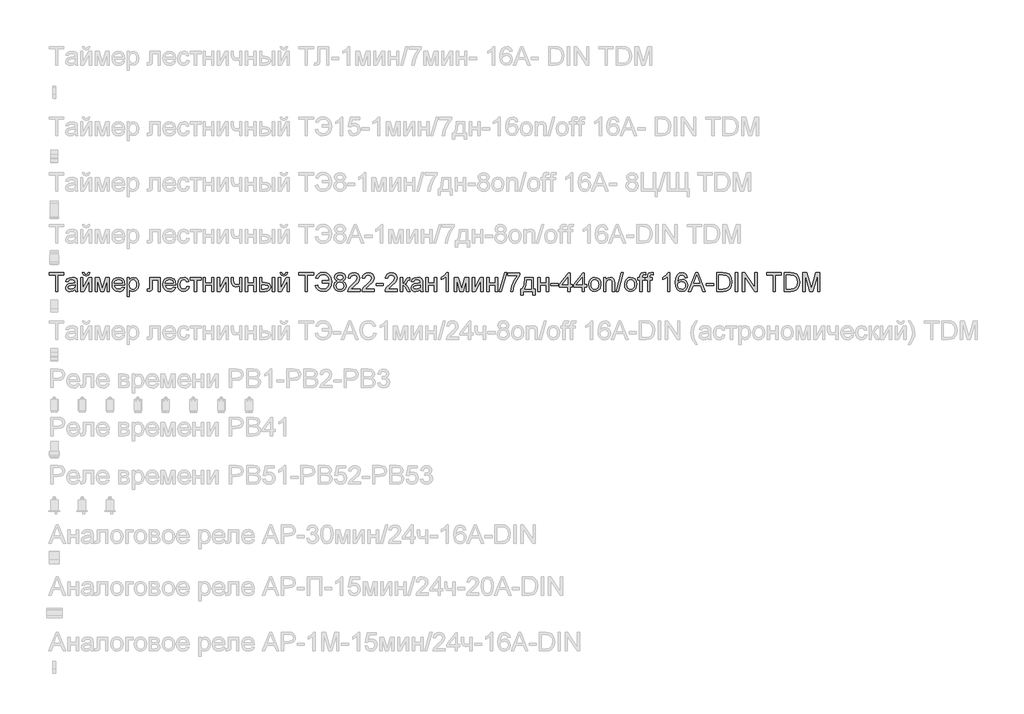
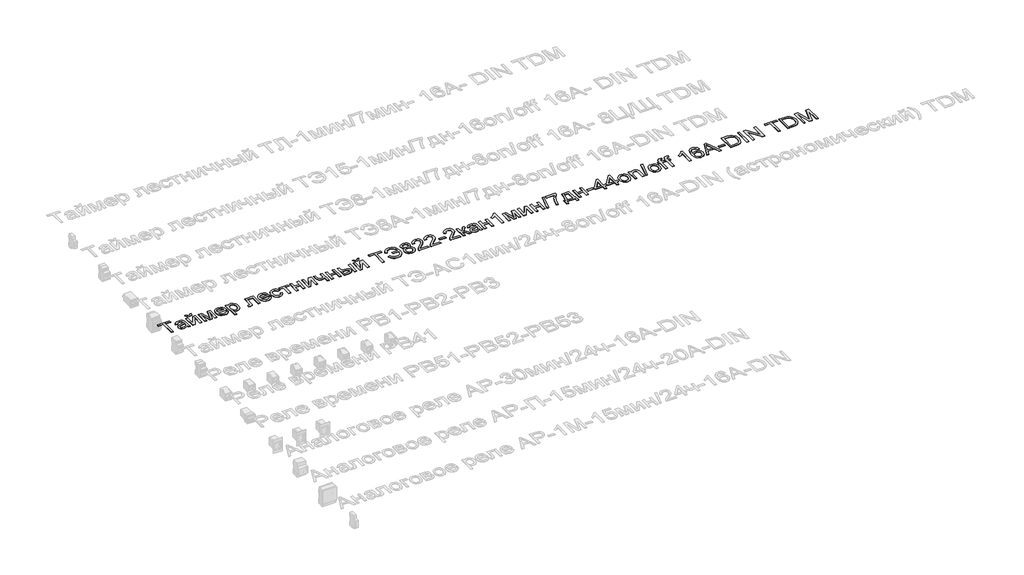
# One storey, part 31 of 34: 1 proxy.
"""IFC4 building model written with IfcOpenShell, lengths in millimetres."""

from ifc_helpers import new_model, si_unit, frame, origin, place, context, project, spatial, polyline, outline, extrude, element, save

model = new_model("IFC4")

# Units and contexts
model_context = context("Model", 3, world=origin())
ifc_project = project(units=[si_unit("LENGTHUNIT", "METRE", prefix="MILLI")], contexts=[model_context])

# Site, building, storey
site = spatial("IfcSite", under=ifc_project)
building = spatial("IfcBuilding", under=site)
storey = spatial("IfcBuildingStorey", under=building, Name="Этаж 01", Elevation=0.0)

# Proxy
placement = place(None, origin())
element("IfcBuildingElementProxy", 1, Name="Надпись на модели 1", ObjectType="Надпись на модели 1", at=placement, inside=storey, context=model_context, shape_type="SweptSolid", body=[
    extrude(outline(polyline([(-19013.8985135, 17316.235284), (-19013.8985135, 17404.1345554), (-19046.8607403, 17404.1345554), (-19046.8607403, 17416.6915941), (-18968.379248, 17416.6915941), (-18968.379248, 17404.1345554), (-19001.3414748, 17404.1345554), (-19001.3414748, 17316.235284), (-19013.8985135, 17316.235284)])), frame((0.0, 0.0, 40.0), z_axis=(0.0, 0.0, 1.0), x_axis=(1.0, 0.0, 0.0)), (0.0, 0.0, 1.0), 2.0),
    extrude(outline(polyline([(-18908.7333139, 17325.6530631), (-18920.9102079, 17317.1427262), (-18934.3624262, 17314.6656541), (-18944.8562601, 17316.1555762), (-18952.5971104, 17320.6253425), (-18957.3703793, 17327.4127653), (-18958.9614689, 17335.8556571), (-18956.5579732, 17345.7884709), (-18950.2426656, 17352.998958), (-18941.450286, 17357.1192364), (-18930.5855044, 17359.0076973), (-18908.8068903, 17363.3241794), (-18908.7333139, 17366.1200825), (-18912.1914046, 17375.3907088), (-18926.0728186, 17379.0204778), (-18938.7770101, 17376.6047194), (-18944.8348003, 17368.0330689), (-18957.3918391, 17369.6026988), (-18951.9594483, 17381.8654319), (-18941.0210903, 17389.0513936), (-18924.4541378, 17391.5775166), (-18909.2360859, 17389.3456992), (-18900.63991, 17383.7416301), (-18896.7894117, 17375.2190306), (-18896.1762751, 17364.2316216), (-18896.1762751, 17348.6088996), (-18895.538613, 17326.7934973), (-18893.0370154, 17316.235284), (-18905.5940542, 17316.235284), (-18908.7333139, 17325.6530631)]), holes=[polyline([(-18908.7333139, 17350.7671406), (-18928.9913491, 17346.9166424), (-18939.794817, 17344.8810287), (-18944.6876475, 17341.5700907), (-18946.4044302, 17336.7385739), (-18942.6642965, 17329.9450197), (-18931.6891504, 17327.2226929), (-18918.9849588, 17330.2270625), (-18910.793453, 17337.4988633), (-18908.8068903, 17347.210948), (-18908.7333139, 17350.7671406)])]), frame((0.0, 0.0, 40.0), z_axis=(0.0, 0.0, 1.0), x_axis=(1.0, 0.0, 0.0)), (0.0, 0.0, 1.0), 2.0),
    extrude(outline(polyline([(-18878.9103468, 17390.0078868), (-18866.353308, 17390.0078868), (-18866.353308, 17333.746467), (-18835.5002713, 17390.0078868), (-18819.2644126, 17390.0078868), (-18819.2644126, 17316.235284), (-18831.8214514, 17316.235284), (-18831.8214514, 17372.1533473), (-18862.4782843, 17316.235284), (-18878.9103468, 17316.235284), (-18878.9103468, 17390.0078868)])), frame((0.0, 0.0, 40.0), z_axis=(0.0, 0.0, 1.0), x_axis=(1.0, 0.0, 0.0)), (0.0, 0.0, 1.0), 2.0),
    extrude(outline(polyline([(-18838.0999708, 17416.6915941), (-18828.6821917, 17416.6915941), (-18834.7767701, 17402.7243411), (-18848.3025648, 17397.856036), (-18862.9442682, 17402.6875529), (-18869.4925677, 17416.6915941), (-18860.0747886, 17416.6915941), (-18856.5431215, 17409.6159971), (-18849.4307362, 17407.2738151), (-18841.6316379, 17409.5424207), (-18838.0999708, 17416.6915941)])), frame((0.0, 0.0, 40.0), z_axis=(0.0, 0.0, 1.0), x_axis=(1.0, 0.0, 0.0)), (0.0, 0.0, 1.0), 2.0),
    extrude(outline(polyline([(-18800.4288545, 17390.0078868), (-18778.8219186, 17390.0078868), (-18762.169127, 17330.9505638), (-18744.2164856, 17390.0078868), (-18723.516992, 17390.0078868), (-18723.516992, 17316.235284), (-18736.0740308, 17316.235284), (-18736.0740308, 17375.6359635), (-18754.124774, 17316.235284), (-18770.6058874, 17316.235284), (-18787.8718157, 17378.4809176), (-18787.8718157, 17316.235284), (-18800.4288545, 17316.235284), (-18800.4288545, 17390.0078868)])), frame((0.0, 0.0, 40.0), z_axis=(0.0, 0.0, 1.0), x_axis=(1.0, 0.0, 0.0)), (0.0, 0.0, 1.0), 2.0),
    extrude(outline(polyline([(-18653.0308017, 17338.2101018), (-18640.7190176, 17336.640472), (-18645.1550614, 17327.3637143), (-18652.2337241, 17320.4291387), (-18661.7955903, 17316.1065253), (-18673.6812444, 17314.6656541), (-18688.4149183, 17317.1519233), (-18699.7518151, 17324.6107308), (-18706.9806963, 17336.5576985), (-18709.3903234, 17352.5084487), (-18706.9561709, 17368.9956935), (-18699.6537133, 17381.3258717), (-18688.4701006, 17389.0146054), (-18674.3924829, 17391.5775166), (-18660.753258, 17389.0207367), (-18649.8547538, 17381.3503971), (-18642.7086461, 17369.0447444), (-18640.3266102, 17352.5820251), (-18640.4001866, 17349.1975108), (-18696.8332846, 17349.1975108), (-18694.6597152, 17339.7981258), (-18689.6105348, 17332.8880756), (-18682.3234056, 17328.6390386), (-18673.4359897, 17327.2226929), (-18661.1242056, 17329.8469178), (-18653.0308017, 17338.2101018)]), holes=[polyline([(-18696.8332846, 17361.7545495), (-18652.8836489, 17361.7545495), (-18657.9113695, 17373.1343659), (-18665.2322212, 17377.5489499), (-18674.4415339, 17379.0204778), (-18689.9048404, 17374.323851), (-18694.7700798, 17368.8332123), (-18696.8332846, 17361.7545495)])]), frame((0.0, 0.0, 40.0), z_axis=(0.0, 0.0, 1.0), x_axis=(1.0, 0.0, 0.0)), (0.0, 0.0, 1.0), 2.0),
    extrude(outline(polyline([(-18627.7695714, 17287.9819468), (-18627.7695714, 17390.0078868), (-18615.2125326, 17390.0078868), (-18615.2125326, 17377.6961027), (-18606.5305175, 17388.1071631), (-18594.8073446, 17391.5775166), (-18578.890317, 17386.7214743), (-18568.4915192, 17373.036264), (-18564.9843776, 17353.6856711), (-18568.9452404, 17333.3417968), (-18580.4476841, 17319.4849083), (-18596.3279235, 17314.6656541), (-18607.2540188, 17317.890753), (-18615.2125326, 17326.0454705), (-18615.2125326, 17287.9819468), (-18627.7695714, 17287.9819468)]), holes=[polyline([(-18615.2125326, 17352.5329742), (-18613.8544349, 17341.2757851), (-18609.7801418, 17333.4031104), (-18603.7683369, 17328.7677973), (-18596.5977037, 17327.2226929), (-18589.3105745, 17328.8229796), (-18583.1454854, 17333.6238396), (-18578.9424336, 17341.7846886), (-18577.5414163, 17353.4649419), (-18578.9087111, 17364.6608173), (-18583.0105953, 17372.6438566), (-18589.0132032, 17377.4263225), (-18596.0826689, 17379.0204778), (-18603.1797257, 17377.325155), (-18609.4122598, 17372.2391864), (-18613.7624644, 17363.9219876), (-18615.2125326, 17352.5329742)])]), frame((0.0, 0.0, 40.0), z_axis=(0.0, 0.0, 1.0), x_axis=(1.0, 0.0, 0.0)), (0.0, 0.0, 1.0), 2.0),
    extrude(outline(polyline([(-18505.3384434, 17390.0078868), (-18448.8317689, 17390.0078868), (-18448.8317689, 17316.3088604), (-18461.3888077, 17316.3088604), (-18461.3888077, 17377.450848), (-18492.7814046, 17377.450848), (-18492.7814046, 17342.2568038), (-18493.6275332, 17326.0209451), (-18498.2751091, 17319.1660772), (-18509.262518, 17316.235284), (-18519.465112, 17316.8729461), (-18519.465112, 17328.7923228), (-18513.8487802, 17328.7923228), (-18508.1711348, 17329.564875), (-18505.9025291, 17332.0174216), (-18505.3384434, 17342.9680423), (-18505.3384434, 17390.0078868)])), frame((0.0, 0.0, 40.0), z_axis=(0.0, 0.0, 1.0), x_axis=(1.0, 0.0, 0.0)), (0.0, 0.0, 1.0), 2.0),
    extrude(outline(polyline([(-18378.3455787, 17338.2101018), (-18366.0337946, 17336.640472), (-18370.4698383, 17327.3637143), (-18377.548501, 17320.4291387), (-18387.1103672, 17316.1065253), (-18398.9960213, 17314.6656541), (-18413.7296952, 17317.1519233), (-18425.0665921, 17324.6107308), (-18432.2954733, 17336.5576985), (-18434.7051003, 17352.5084487), (-18432.2709478, 17368.9956935), (-18424.9684902, 17381.3258717), (-18413.7848775, 17389.0146054), (-18399.7072599, 17391.5775166), (-18386.0680349, 17389.0207367), (-18375.1695308, 17381.3503971), (-18368.023423, 17369.0447444), (-18365.6413871, 17352.5820251), (-18365.7149635, 17349.1975108), (-18422.1480616, 17349.1975108), (-18419.9744921, 17339.7981258), (-18414.9253117, 17332.8880756), (-18407.6381825, 17328.6390386), (-18398.7507667, 17327.2226929), (-18386.4389826, 17329.8469178), (-18378.3455787, 17338.2101018)]), holes=[polyline([(-18422.1480616, 17361.7545495), (-18378.1984259, 17361.7545495), (-18383.2261465, 17373.1343659), (-18390.5469982, 17377.5489499), (-18399.7563108, 17379.0204778), (-18415.2196173, 17374.323851), (-18420.0848567, 17368.8332123), (-18422.1480616, 17361.7545495)])]), frame((0.0, 0.0, 40.0), z_axis=(0.0, 0.0, 1.0), x_axis=(1.0, 0.0, 0.0)), (0.0, 0.0, 1.0), 2.0),
    extrude(outline(polyline([(-18305.995453, 17342.9189914), (-18293.4384142, 17341.3493615), (-18296.9394245, 17330.1810773), (-18303.5183809, 17321.7412512), (-18312.5560152, 17316.4345534), (-18323.4330595, 17314.6656541), (-18336.7902416, 17317.1335292), (-18347.2350246, 17324.5371544), (-18353.9764622, 17336.5515672), (-18356.223608, 17352.8518052), (-18352.3853725, 17373.7107144), (-18340.6867251, 17387.1138817), (-18323.6047378, 17391.5775166), (-18312.9944079, 17390.044675), (-18304.5116622, 17385.44615), (-18298.4262809, 17378.0271964), (-18295.008044, 17368.0330689), (-18307.5650828, 17366.4634391), (-18313.3898811, 17375.8689554), (-18323.5066359, 17379.0204778), (-18331.6214996, 17377.4692421), (-18338.0625002, 17372.8155349), (-18342.265552, 17364.8079701), (-18343.6665693, 17353.1951618), (-18342.2962088, 17341.4260036), (-18338.1851275, 17333.3908477), (-18331.8606229, 17328.7647316), (-18323.8499925, 17327.2226929), (-18312.0164549, 17331.0731911), (-18305.995453, 17342.9189914)])), frame((0.0, 0.0, 40.0), z_axis=(0.0, 0.0, 1.0), x_axis=(1.0, 0.0, 0.0)), (0.0, 0.0, 1.0), 2.0),
    extrude(outline(polyline([(-18288.7295246, 17390.0078868), (-18229.0835905, 17390.0078868), (-18229.0835905, 17377.450848), (-18252.6280382, 17377.450848), (-18252.6280382, 17316.235284), (-18265.185077, 17316.235284), (-18265.185077, 17377.450848), (-18288.7295246, 17377.450848), (-18288.7295246, 17390.0078868)])), frame((0.0, 0.0, 40.0), z_axis=(0.0, 0.0, 1.0), x_axis=(1.0, 0.0, 0.0)), (0.0, 0.0, 1.0), 2.0),
    extrude(outline(polyline([(-18218.0961816, 17390.0078868), (-18205.5391428, 17390.0078868), (-18205.5391428, 17361.7545495), (-18172.576916, 17361.7545495), (-18172.576916, 17390.0078868), (-18160.0198773, 17390.0078868), (-18160.0198773, 17316.235284), (-18172.576916, 17316.235284), (-18172.576916, 17349.1975108), (-18205.5391428, 17349.1975108), (-18205.5391428, 17316.235284), (-18218.0961816, 17316.235284), (-18218.0961816, 17390.0078868)])), frame((0.0, 0.0, 40.0), z_axis=(0.0, 0.0, 1.0), x_axis=(1.0, 0.0, 0.0)), (0.0, 0.0, 1.0), 2.0),
    extrude(outline(polyline([(-18141.1843191, 17390.0078868), (-18128.6272803, 17390.0078868), (-18128.6272803, 17333.746467), (-18097.7742437, 17390.0078868), (-18081.538385, 17390.0078868), (-18081.538385, 17316.235284), (-18094.0954237, 17316.235284), (-18094.0954237, 17372.1533473), (-18124.7522567, 17316.235284), (-18141.1843191, 17316.235284), (-18141.1843191, 17390.0078868)])), frame((0.0, 0.0, 40.0), z_axis=(0.0, 0.0, 1.0), x_axis=(1.0, 0.0, 0.0)), (0.0, 0.0, 1.0), 2.0),
    extrude(outline(polyline([(-18067.4117163, 17390.0078868), (-18054.8546776, 17390.0078868), (-18054.8546776, 17375.8566927), (-18053.8368707, 17362.5884154), (-18048.9440402, 17355.4024537), (-18039.2319555, 17352.3367705), (-18021.8924508, 17356.1382177), (-18021.8924508, 17390.0078868), (-18009.335412, 17390.0078868), (-18009.335412, 17316.235284), (-18021.8924508, 17316.235284), (-18021.8924508, 17344.0962138), (-18042.5919444, 17339.7797317), (-18056.8289776, 17344.2801548), (-18065.2044244, 17355.3043519), (-18067.4117163, 17369.6517497), (-18067.4117163, 17390.0078868)])), frame((0.0, 0.0, 40.0), z_axis=(0.0, 0.0, 1.0), x_axis=(1.0, 0.0, 0.0)), (0.0, 0.0, 1.0), 2.0),
    extrude(outline(polyline([(-17990.4998539, 17390.0078868), (-17977.9428151, 17390.0078868), (-17977.9428151, 17361.7545495), (-17944.9805884, 17361.7545495), (-17944.9805884, 17390.0078868), (-17932.4235496, 17390.0078868), (-17932.4235496, 17316.235284), (-17944.9805884, 17316.235284), (-17944.9805884, 17349.1975108), (-17977.9428151, 17349.1975108), (-17977.9428151, 17316.235284), (-17990.4998539, 17316.235284), (-17990.4998539, 17390.0078868)])), frame((0.0, 0.0, 40.0), z_axis=(0.0, 0.0, 1.0), x_axis=(1.0, 0.0, 0.0)), (0.0, 0.0, 1.0), 2.0),
    extrude(outline(polyline([(-17844.5242782, 17390.0078868), (-17831.9672394, 17390.0078868), (-17831.9672394, 17316.235284), (-17844.5242782, 17316.235284), (-17844.5242782, 17390.0078868)])), frame((0.0, 0.0, 40.0), z_axis=(0.0, 0.0, 1.0), x_axis=(1.0, 0.0, 0.0)), (0.0, 0.0, 1.0), 2.0),
    extrude(outline(polyline([(-17913.5879914, 17390.0078868), (-17901.0309527, 17390.0078868), (-17901.0309527, 17363.3241794), (-17885.5063325, 17363.3241794), (-17872.0878367, 17361.7514838), (-17862.1458258, 17357.0333973), (-17855.9929994, 17349.5500643), (-17853.9420573, 17339.6816298), (-17855.6619056, 17330.6961121), (-17860.8214506, 17323.1146773), (-17869.7579174, 17317.9551323), (-17882.8085312, 17316.235284), (-17913.5879914, 17316.235284), (-17913.5879914, 17390.0078868)]), holes=[polyline([(-17901.0309527, 17328.7923228), (-17888.1305574, 17328.7923228), (-17871.4777657, 17331.4288104), (-17866.499096, 17339.6571044), (-17870.1901787, 17347.3826263), (-17886.4873511, 17350.7671406), (-17901.0309527, 17350.7671406), (-17901.0309527, 17328.7923228)])]), frame((0.0, 0.0, 40.0), z_axis=(0.0, 0.0, 1.0), x_axis=(1.0, 0.0, 0.0)), (0.0, 0.0, 1.0), 2.0),
    extrude(outline(polyline([(-17813.1316813, 17390.0078868), (-17800.5746425, 17390.0078868), (-17800.5746425, 17333.746467), (-17769.7216059, 17390.0078868), (-17753.4857471, 17390.0078868), (-17753.4857471, 17316.235284), (-17766.0427859, 17316.235284), (-17766.0427859, 17372.1533473), (-17796.6996188, 17316.235284), (-17813.1316813, 17316.235284), (-17813.1316813, 17390.0078868)])), frame((0.0, 0.0, 40.0), z_axis=(0.0, 0.0, 1.0), x_axis=(1.0, 0.0, 0.0)), (0.0, 0.0, 1.0), 2.0),
    extrude(outline(polyline([(-17772.3213053, 17416.6915941), (-17762.9035262, 17416.6915941), (-17768.9981046, 17402.7243411), (-17782.5238993, 17397.856036), (-17797.1656027, 17402.6875529), (-17803.7139022, 17416.6915941), (-17794.2961231, 17416.6915941), (-17790.764456, 17409.6159971), (-17783.6520707, 17407.2738151), (-17775.8529724, 17409.5424207), (-17772.3213053, 17416.6915941)])), frame((0.0, 0.0, 40.0), z_axis=(0.0, 0.0, 1.0), x_axis=(1.0, 0.0, 0.0)), (0.0, 0.0, 1.0), 2.0),
    extrude(outline(polyline([(-17668.7257354, 17316.235284), (-17668.7257354, 17404.1345554), (-17701.6879622, 17404.1345554), (-17701.6879622, 17416.6915941), (-17623.2064699, 17416.6915941), (-17623.2064699, 17404.1345554), (-17656.1686967, 17404.1345554), (-17656.1686967, 17316.235284), (-17668.7257354, 17316.235284)])), frame((0.0, 0.0, 40.0), z_axis=(0.0, 0.0, 1.0), x_axis=(1.0, 0.0, 0.0)), (0.0, 0.0, 1.0), 2.0),
    extrude(outline(polyline([(-17576.1175745, 17374.3115883), (-17538.4464582, 17374.3115883), (-17541.2117045, 17387.2641002), (-17547.8397118, 17397.2306366), (-17558.0300431, 17403.5857981), (-17571.4822614, 17405.7041852), (-17589.6985515, 17400.6028882), (-17599.6620222, 17385.2989972), (-17612.219061, 17388.4382569), (-17606.8479839, 17400.933982), (-17598.0923924, 17410.3640238), (-17586.3753508, 17416.2869239), (-17572.1199235, 17418.261224), (-17558.4285819, 17416.4494052), (-17546.7851168, 17411.0139487), (-17537.5359503, 17402.7611293), (-17531.0275046, 17392.4972216), (-17525.8894194, 17367.5670851), (-17528.2132074, 17346.9748904), (-17536.7051501, 17329.9327569), (-17551.3161967, 17318.4824298), (-17571.9972962, 17314.6656541), (-17587.0252757, 17316.7257933), (-17598.9998346, 17322.9062108), (-17607.920973, 17333.2069067), (-17613.7886908, 17347.6278809), (-17601.2316521, 17350.7671406), (-17596.9887464, 17340.4664447), (-17590.4649723, 17333.1088048), (-17581.6603299, 17328.6942209), (-17570.5748191, 17327.2226929), (-17558.0545686, 17329.5342181), (-17548.0113901, 17336.4687937), (-17541.2178359, 17347.4132831), (-17538.4464582, 17361.7545495), (-17576.1175745, 17361.7545495), (-17576.1175745, 17374.3115883)])), frame((0.0, 0.0, 40.0), z_axis=(0.0, 0.0, 1.0), x_axis=(1.0, 0.0, 0.0)), (0.0, 0.0, 1.0), 2.0),
    extrude(outline(polyline([(-17495.0363828, 17371.5647361), (-17506.4775128, 17379.3638344), (-17510.193121, 17391.5039402), (-17508.16977, 17401.3202581), (-17502.0997171, 17409.4320561), (-17492.6635439, 17414.8767096), (-17480.5418322, 17416.6915941), (-17468.346544, 17414.8337901), (-17458.7877435, 17409.2603778), (-17452.607326, 17401.0198211), (-17450.5471868, 17391.1605837), (-17454.2137441, 17379.3270462), (-17465.336043, 17371.5647361), (-17451.9819266, 17361.7177613), (-17447.4079271, 17345.4696399), (-17449.6765328, 17333.4644241), (-17456.4823497, 17323.543873), (-17466.991512, 17316.8852089), (-17480.3701539, 17314.6656541), (-17493.7487958, 17316.8944059), (-17504.2579581, 17323.5806612), (-17511.063775, 17333.5962485), (-17513.3323807, 17345.8129964), (-17508.5744402, 17362.4412626), (-17495.0363828, 17371.5647361)]), holes=[polyline([(-17497.6360822, 17391.1360582), (-17493.1847101, 17381.2768207), (-17480.2230011, 17377.450848), (-17467.5188095, 17381.2522953), (-17463.1042256, 17390.5719725), (-17467.6659623, 17400.2227435), (-17480.3701539, 17404.1345554), (-17493.1111337, 17400.3085826), (-17497.6360822, 17391.1360582)]), polyline([(-17500.7753419, 17346.2544548), (-17498.6784145, 17336.7998875), (-17491.259461, 17329.7242905), (-17480.272052, 17327.2226929), (-17471.724927, 17328.537871), (-17465.3115176, 17332.4834054), (-17459.9649659, 17345.8620473), (-17465.4831958, 17359.4982066), (-17472.0437581, 17363.5449086), (-17480.688985, 17364.8938092), (-17489.1165483, 17363.5633027), (-17495.4655784, 17359.571783), (-17500.7753419, 17346.2544548)])]), frame((0.0, 0.0, 40.0), z_axis=(0.0, 0.0, 1.0), x_axis=(1.0, 0.0, 0.0)), (0.0, 0.0, 1.0), 2.0),
    extrude(outline(polyline([(-17372.0656945, 17328.7923228), (-17372.0656945, 17316.235284), (-17437.9901481, 17316.235284), (-17436.6412474, 17324.8927736), (-17429.0138274, 17338.2223646), (-17413.2930035, 17352.7782288), (-17391.6124912, 17373.6984516), (-17386.1923631, 17387.9232221), (-17391.3059229, 17399.4379286), (-17404.6600393, 17404.1345554), (-17418.5782415, 17399.5482932), (-17423.8634795, 17386.8686271), (-17436.4205182, 17388.4382569), (-17433.3762947, 17400.5844941), (-17426.7942727, 17409.4565816), (-17417.0178087, 17414.882841), (-17404.3902592, 17416.6915941), (-17391.6707392, 17414.6805059), (-17381.9126693, 17408.6472412), (-17375.7046606, 17399.6341323), (-17373.6353244, 17388.6835116), (-17375.8671418, 17376.7763977), (-17383.2860954, 17364.4646136), (-17401.2755249, 17347.2599989), (-17415.7210246, 17335.1812067), (-17421.3864074, 17328.7923228), (-17372.0656945, 17328.7923228)])), frame((0.0, 0.0, 40.0), z_axis=(0.0, 0.0, 1.0), x_axis=(1.0, 0.0, 0.0)), (0.0, 0.0, 1.0), 2.0),
    extrude(outline(polyline([(-17295.1538321, 17328.7923228), (-17295.1538321, 17316.235284), (-17361.0782856, 17316.235284), (-17359.729385, 17324.8927736), (-17352.1019649, 17338.2223646), (-17336.381141, 17352.7782288), (-17314.7006288, 17373.6984516), (-17309.2805007, 17387.9232221), (-17314.3940604, 17399.4379286), (-17327.7481768, 17404.1345554), (-17341.666379, 17399.5482932), (-17346.951617, 17386.8686271), (-17359.5086558, 17388.4382569), (-17356.4644323, 17400.5844941), (-17349.8824102, 17409.4565816), (-17340.1059462, 17414.882841), (-17327.4783967, 17416.6915941), (-17314.7588767, 17414.6805059), (-17305.0008068, 17408.6472412), (-17298.7927981, 17399.6341323), (-17296.7234619, 17388.6835116), (-17298.9552794, 17376.7763977), (-17306.3742329, 17364.4646136), (-17324.3636625, 17347.2599989), (-17338.8091622, 17335.1812067), (-17344.4745449, 17328.7923228), (-17295.1538321, 17328.7923228)])), frame((0.0, 0.0, 40.0), z_axis=(0.0, 0.0, 1.0), x_axis=(1.0, 0.0, 0.0)), (0.0, 0.0, 1.0), 2.0),
    extrude(outline(polyline([(-17285.736053, 17346.0582511), (-17285.736053, 17358.6152898), (-17246.4953068, 17358.6152898), (-17246.4953068, 17346.0582511), (-17285.736053, 17346.0582511)])), frame((0.0, 0.0, 40.0), z_axis=(0.0, 0.0, 1.0), x_axis=(1.0, 0.0, 0.0)), (0.0, 0.0, 1.0), 2.0),
    extrude(outline(polyline([(-17171.1530742, 17328.7923228), (-17171.1530742, 17316.235284), (-17237.0775278, 17316.235284), (-17235.7286271, 17324.8927736), (-17228.1012071, 17338.2223646), (-17212.3803832, 17352.7782288), (-17190.6998709, 17373.6984516), (-17185.2797428, 17387.9232221), (-17190.3933026, 17399.4379286), (-17203.747419, 17404.1345554), (-17217.6656212, 17399.5482932), (-17222.9508592, 17386.8686271), (-17235.5078979, 17388.4382569), (-17232.4636744, 17400.5844941), (-17225.8816524, 17409.4565816), (-17216.1051884, 17414.882841), (-17203.4776389, 17416.6915941), (-17190.7581189, 17414.6805059), (-17181.000049, 17408.6472412), (-17174.7920403, 17399.6341323), (-17172.7227041, 17388.6835116), (-17174.9545215, 17376.7763977), (-17182.3734751, 17364.4646136), (-17200.3629047, 17347.2599989), (-17214.8084043, 17335.1812067), (-17220.4737871, 17328.7923228), (-17171.1530742, 17328.7923228)])), frame((0.0, 0.0, 40.0), z_axis=(0.0, 0.0, 1.0), x_axis=(1.0, 0.0, 0.0)), (0.0, 0.0, 1.0), 2.0),
    extrude(outline(polyline([(-17155.4567758, 17390.0078868), (-17142.899737, 17390.0078868), (-17142.899737, 17358.6152898), (-17134.487502, 17360.8716327), (-17127.595846, 17374.0172827), (-17121.8691496, 17385.3603109), (-17116.8169035, 17389.0513936), (-17107.6321164, 17390.0078868), (-17105.2286207, 17390.0078868), (-17105.2286207, 17377.3772716), (-17108.6131351, 17377.450848), (-17114.7445016, 17376.1264728), (-17119.0609837, 17367.8613906), (-17124.1254925, 17358.9218582), (-17131.225615, 17354.5440624), (-17123.3038894, 17349.6573633), (-17115.5293166, 17339.3627988), (-17102.089361, 17316.235284), (-17116.3631824, 17316.235284), (-17129.5333578, 17338.8722894), (-17136.1552338, 17348.449484), (-17142.899737, 17350.7671406), (-17142.899737, 17316.235284), (-17155.4567758, 17316.235284), (-17155.4567758, 17390.0078868)])), frame((0.0, 0.0, 40.0), z_axis=(0.0, 0.0, 1.0), x_axis=(1.0, 0.0, 0.0)), (0.0, 0.0, 1.0), 2.0),
    extrude(outline(polyline([(-17047.1523164, 17325.6530631), (-17059.3292104, 17317.1427262), (-17072.7814287, 17314.6656541), (-17083.2752626, 17316.1555762), (-17091.016113, 17320.6253425), (-17095.7893818, 17327.4127653), (-17097.3804715, 17335.8556571), (-17094.9769758, 17345.7884709), (-17088.6616682, 17352.998958), (-17079.8692885, 17357.1192364), (-17069.0045069, 17359.0076973), (-17047.2258928, 17363.3241794), (-17047.1523164, 17366.1200825), (-17050.6104071, 17375.3907088), (-17064.4918211, 17379.0204778), (-17077.1960127, 17376.6047194), (-17083.2538029, 17368.0330689), (-17095.8108416, 17369.6026988), (-17090.3784508, 17381.8654319), (-17079.4400928, 17389.0513936), (-17062.8731403, 17391.5775166), (-17047.6550885, 17389.3456992), (-17039.0589125, 17383.7416301), (-17035.2084143, 17375.2190306), (-17034.5952776, 17364.2316216), (-17034.5952776, 17348.6088996), (-17033.9576155, 17326.7934973), (-17031.4560179, 17316.235284), (-17044.0130567, 17316.235284), (-17047.1523164, 17325.6530631)]), holes=[polyline([(-17047.1523164, 17350.7671406), (-17067.4103516, 17346.9166424), (-17078.2138195, 17344.8810287), (-17083.1066501, 17341.5700907), (-17084.8234327, 17336.7385739), (-17081.0832991, 17329.9450197), (-17070.1081529, 17327.2226929), (-17057.4039613, 17330.2270625), (-17049.2124556, 17337.4988633), (-17047.2258928, 17347.210948), (-17047.1523164, 17350.7671406)])]), frame((0.0, 0.0, 40.0), z_axis=(0.0, 0.0, 1.0), x_axis=(1.0, 0.0, 0.0)), (0.0, 0.0, 1.0), 2.0),
    extrude(outline(polyline([(-17017.3293493, 17390.0078868), (-17004.7723105, 17390.0078868), (-17004.7723105, 17361.7545495), (-16971.8100838, 17361.7545495), (-16971.8100838, 17390.0078868), (-16959.253045, 17390.0078868), (-16959.253045, 17316.235284), (-16971.8100838, 17316.235284), (-16971.8100838, 17349.1975108), (-17004.7723105, 17349.1975108), (-17004.7723105, 17316.235284), (-17017.3293493, 17316.235284), (-17017.3293493, 17390.0078868)])), frame((0.0, 0.0, 40.0), z_axis=(0.0, 0.0, 1.0), x_axis=(1.0, 0.0, 0.0)), (0.0, 0.0, 1.0), 2.0),
    extrude(outline(polyline([(-16896.4678512, 17316.235284), (-16909.0248899, 17316.235284), (-16909.0248899, 17394.5205726), (-16920.9197411, 17386.0470239), (-16934.1389675, 17379.7071909), (-16934.1389675, 17391.5775166), (-16915.732605, 17403.325215), (-16904.5612551, 17416.6915941), (-16896.4678512, 17416.6915941), (-16896.4678512, 17316.235284)])), frame((0.0, 0.0, 40.0), z_axis=(0.0, 0.0, 1.0), x_axis=(1.0, 0.0, 0.0)), (0.0, 0.0, 1.0), 2.0),
    extrude(outline(polyline([(-16863.5056244, 17390.0078868), (-16841.8986885, 17390.0078868), (-16825.2458969, 17330.9505638), (-16807.2932555, 17390.0078868), (-16786.5937619, 17390.0078868), (-16786.5937619, 17316.235284), (-16799.1508007, 17316.235284), (-16799.1508007, 17375.6359635), (-16817.2015439, 17316.235284), (-16833.6826573, 17316.235284), (-16850.9485856, 17378.4809176), (-16850.9485856, 17316.235284), (-16863.5056244, 17316.235284), (-16863.5056244, 17390.0078868)])), frame((0.0, 0.0, 40.0), z_axis=(0.0, 0.0, 1.0), x_axis=(1.0, 0.0, 0.0)), (0.0, 0.0, 1.0), 2.0),
    extrude(outline(polyline([(-16767.7582038, 17390.0078868), (-16755.201165, 17390.0078868), (-16755.201165, 17333.746467), (-16724.3481284, 17390.0078868), (-16708.1122696, 17390.0078868), (-16708.1122696, 17316.235284), (-16720.6693084, 17316.235284), (-16720.6693084, 17372.1533473), (-16751.3261413, 17316.235284), (-16767.7582038, 17316.235284), (-16767.7582038, 17390.0078868)])), frame((0.0, 0.0, 40.0), z_axis=(0.0, 0.0, 1.0), x_axis=(1.0, 0.0, 0.0)), (0.0, 0.0, 1.0), 2.0),
    extrude(outline(polyline([(-16689.2767115, 17390.0078868), (-16676.7196727, 17390.0078868), (-16676.7196727, 17361.7545495), (-16643.7574459, 17361.7545495), (-16643.7574459, 17390.0078868), (-16631.2004072, 17390.0078868), (-16631.2004072, 17316.235284), (-16643.7574459, 17316.235284), (-16643.7574459, 17349.1975108), (-16676.7196727, 17349.1975108), (-16676.7196727, 17316.235284), (-16689.2767115, 17316.235284), (-16689.2767115, 17390.0078868)])), frame((0.0, 0.0, 40.0), z_axis=(0.0, 0.0, 1.0), x_axis=(1.0, 0.0, 0.0)), (0.0, 0.0, 1.0), 2.0),
    extrude(outline(polyline([(-16621.7826281, 17316.235284), (-16593.5292909, 17416.6915941), (-16582.1985254, 17416.6915941), (-16610.4518627, 17316.235284), (-16621.7826281, 17316.235284)])), frame((0.0, 0.0, 40.0), z_axis=(0.0, 0.0, 1.0), x_axis=(1.0, 0.0, 0.0)), (0.0, 0.0, 1.0), 2.0),
    extrude(outline(polyline([(-16576.2633626, 17402.5649255), (-16576.2633626, 17415.1219643), (-16510.338909, 17415.1219643), (-16510.338909, 17404.9684212), (-16529.0395771, 17377.9536201), (-16543.3501867, 17343.532128), (-16548.0100253, 17316.235284), (-16560.5670641, 17316.235284), (-16555.5761317, 17344.5621976), (-16541.8786587, 17376.5801939), (-16522.8959478, 17402.5649255), (-16576.2633626, 17402.5649255)])), frame((0.0, 0.0, 40.0), z_axis=(0.0, 0.0, 1.0), x_axis=(1.0, 0.0, 0.0)), (0.0, 0.0, 1.0), 2.0),
    extrude(outline(polyline([(-16485.2248315, 17390.0078868), (-16438.1359361, 17390.0078868), (-16438.1359361, 17328.7923228), (-16428.718157, 17328.7923228), (-16428.718157, 17295.830096), (-16441.2751958, 17295.830096), (-16441.2751958, 17316.235284), (-16493.0729807, 17316.235284), (-16493.0729807, 17295.830096), (-16505.6300195, 17295.830096), (-16505.6300195, 17328.7923228), (-16497.7818703, 17328.7923228), (-16488.0820483, 17352.7414406), (-16485.2248315, 17390.0078868)]), holes=[polyline([(-16474.2374226, 17377.450848), (-16477.1804785, 17348.8418915), (-16483.6552016, 17328.7923228), (-16450.6929749, 17328.7923228), (-16450.6929749, 17377.450848), (-16474.2374226, 17377.450848)])]), frame((0.0, 0.0, 40.0), z_axis=(0.0, 0.0, 1.0), x_axis=(1.0, 0.0, 0.0)), (0.0, 0.0, 1.0), 2.0),
    extrude(outline(polyline([(-16414.5914884, 17390.0078868), (-16402.0344497, 17390.0078868), (-16402.0344497, 17361.7545495), (-16369.0722229, 17361.7545495), (-16369.0722229, 17390.0078868), (-16356.5151841, 17390.0078868), (-16356.5151841, 17316.235284), (-16369.0722229, 17316.235284), (-16369.0722229, 17349.1975108), (-16402.0344497, 17349.1975108), (-16402.0344497, 17316.235284), (-16414.5914884, 17316.235284), (-16414.5914884, 17390.0078868)])), frame((0.0, 0.0, 40.0), z_axis=(0.0, 0.0, 1.0), x_axis=(1.0, 0.0, 0.0)), (0.0, 0.0, 1.0), 2.0),
    extrude(outline(polyline([(-16343.9581453, 17346.0582511), (-16343.9581453, 17358.6152898), (-16304.7173992, 17358.6152898), (-16304.7173992, 17346.0582511), (-16343.9581453, 17346.0582511)])), frame((0.0, 0.0, 40.0), z_axis=(0.0, 0.0, 1.0), x_axis=(1.0, 0.0, 0.0)), (0.0, 0.0, 1.0), 2.0),
    extrude(outline(polyline([(-16252.9196143, 17316.235284), (-16252.9196143, 17339.7797317), (-16298.4388798, 17339.7797317), (-16298.4388798, 17352.3367705), (-16249.7803546, 17415.1219643), (-16240.3625755, 17415.1219643), (-16240.3625755, 17352.3367705), (-16227.8055367, 17352.3367705), (-16227.8055367, 17339.7797317), (-16240.3625755, 17339.7797317), (-16240.3625755, 17316.235284), (-16252.9196143, 17316.235284)]), holes=[polyline([(-16252.9196143, 17352.3367705), (-16252.9196143, 17391.1360582), (-16282.987836, 17352.3367705), (-16252.9196143, 17352.3367705)])]), frame((0.0, 0.0, 40.0), z_axis=(0.0, 0.0, 1.0), x_axis=(1.0, 0.0, 0.0)), (0.0, 0.0, 1.0), 2.0),
    extrude(outline(polyline([(-16176.0077518, 17316.235284), (-16176.0077518, 17339.7797317), (-16221.5270174, 17339.7797317), (-16221.5270174, 17352.3367705), (-16172.8684921, 17415.1219643), (-16163.450713, 17415.1219643), (-16163.450713, 17352.3367705), (-16150.8936743, 17352.3367705), (-16150.8936743, 17339.7797317), (-16163.450713, 17339.7797317), (-16163.450713, 17316.235284), (-16176.0077518, 17316.235284)]), holes=[polyline([(-16176.0077518, 17352.3367705), (-16176.0077518, 17391.1360582), (-16206.0759736, 17352.3367705), (-16176.0077518, 17352.3367705)])]), frame((0.0, 0.0, 40.0), z_axis=(0.0, 0.0, 1.0), x_axis=(1.0, 0.0, 0.0)), (0.0, 0.0, 1.0), 2.0),
    extrude(outline(polyline([(-16139.9062654, 17353.1215854), (-16137.19007, 17370.9086798), (-16129.0414838, 17383.4105363), (-16118.9737798, 17389.5357715), (-16106.9195131, 17391.5775166), (-16093.7278779, 17389.0912475), (-16083.1911244, 17381.63244), (-16076.28414, 17369.7897054), (-16073.9818118, 17354.151655), (-16078.0530392, 17331.8089551), (-16089.9111022, 17319.1660772), (-16106.9195131, 17314.6656541), (-16120.2705639, 17317.1427262), (-16130.7950546, 17324.5739426), (-16137.6284627, 17336.6649975), (-16139.9062654, 17353.1215854)]), holes=[polyline([(-16127.3492266, 17353.1461108), (-16125.8960927, 17341.7816229), (-16121.5366911, 17333.6851533), (-16114.9761288, 17328.838308), (-16106.9195131, 17327.2226929), (-16098.8996856, 17328.8475051), (-16092.3513861, 17333.7219415), (-16087.9919845, 17341.92571), (-16086.5388506, 17353.5385183), (-16088.0011815, 17364.5719125), (-16092.3881743, 17372.5580175), (-16098.9456709, 17377.4048627), (-16106.9195131, 17379.0204778), (-16114.9761288, 17377.4109941), (-16121.5366911, 17372.5825429), (-16125.8960927, 17364.5044674), (-16127.3492266, 17353.1461108)])]), frame((0.0, 0.0, 40.0), z_axis=(0.0, 0.0, 1.0), x_axis=(1.0, 0.0, 0.0)), (0.0, 0.0, 1.0), 2.0),
    extrude(outline(polyline([(-16059.8551432, 17316.235284), (-16059.8551432, 17390.0078868), (-16047.2981044, 17390.0078868), (-16047.2981044, 17379.7071909), (-16037.6963844, 17388.6099352), (-16024.5875226, 17391.5775166), (-16012.7294596, 17389.1862836), (-16004.6360557, 17382.9077643), (-16000.8713966, 17373.6739262), (-16000.2092091, 17361.5338203), (-16000.2092091, 17316.235284), (-16012.7662478, 17316.235284), (-16012.7662478, 17359.8415632), (-16014.2132503, 17370.9515994), (-16019.3268101, 17376.8254486), (-16027.9475115, 17379.0204778), (-16041.571408, 17374.0908591), (-16045.8664303, 17366.947817), (-16047.2981044, 17355.3779283), (-16047.2981044, 17316.235284), (-16059.8551432, 17316.235284)])), frame((0.0, 0.0, 40.0), z_axis=(0.0, 0.0, 1.0), x_axis=(1.0, 0.0, 0.0)), (0.0, 0.0, 1.0), 2.0),
    extrude(outline(polyline([(-15992.3610598, 17316.235284), (-15964.1077226, 17416.6915941), (-15952.7769571, 17416.6915941), (-15981.0302944, 17316.235284), (-15992.3610598, 17316.235284)])), frame((0.0, 0.0, 40.0), z_axis=(0.0, 0.0, 1.0), x_axis=(1.0, 0.0, 0.0)), (0.0, 0.0, 1.0), 2.0),
    extrude(outline(polyline([(-15946.8417943, 17353.1215854), (-15944.1255989, 17370.9086798), (-15935.9770127, 17383.4105363), (-15925.9093088, 17389.5357715), (-15913.8550421, 17391.5775166), (-15900.6634068, 17389.0912475), (-15890.1266534, 17381.63244), (-15883.2196689, 17369.7897054), (-15880.9173407, 17354.151655), (-15884.9885682, 17331.8089551), (-15896.8466311, 17319.1660772), (-15913.8550421, 17314.6656541), (-15927.2060928, 17317.1427262), (-15937.7305835, 17324.5739426), (-15944.5639916, 17336.6649975), (-15946.8417943, 17353.1215854)]), holes=[polyline([(-15934.2847555, 17353.1461108), (-15932.8316216, 17341.7816229), (-15928.47222, 17333.6851533), (-15921.9116577, 17328.838308), (-15913.8550421, 17327.2226929), (-15905.8352146, 17328.8475051), (-15899.286915, 17333.7219415), (-15894.9275134, 17341.92571), (-15893.4743795, 17353.5385183), (-15894.9367104, 17364.5719125), (-15899.3237032, 17372.5580175), (-15905.8811998, 17377.4048627), (-15913.8550421, 17379.0204778), (-15921.9116577, 17377.4109941), (-15928.47222, 17372.5825429), (-15932.8316216, 17364.5044674), (-15934.2847555, 17353.1461108)])]), frame((0.0, 0.0, 40.0), z_axis=(0.0, 0.0, 1.0), x_axis=(1.0, 0.0, 0.0)), (0.0, 0.0, 1.0), 2.0),
    extrude(outline(polyline([(-15822.8410364, 17316.235284), (-15822.8410364, 17377.450848), (-15833.8284454, 17377.450848), (-15833.8284454, 17390.0078868), (-15822.8410364, 17390.0078868), (-15822.8410364, 17397.4391031), (-15821.5166613, 17407.9114772), (-15815.0909891, 17415.3917444), (-15802.4358484, 17418.261224), (-15790.9824557, 17416.8877979), (-15792.8218656, 17405.115574), (-15800.0568782, 17405.7041852), (-15807.9663411, 17403.6195206), (-15810.2839977, 17395.8449477), (-15810.2839977, 17390.0078868), (-15796.1573291, 17390.0078868), (-15796.1573291, 17377.450848), (-15810.2839977, 17377.450848), (-15810.2839977, 17316.235284), (-15822.8410364, 17316.235284)])), frame((0.0, 0.0, 40.0), z_axis=(0.0, 0.0, 1.0), x_axis=(1.0, 0.0, 0.0)), (0.0, 0.0, 1.0), 2.0),
    extrude(outline(polyline([(-15863.6514124, 17316.235284), (-15863.6514124, 17377.450848), (-15874.6388214, 17377.450848), (-15874.6388214, 17390.0078868), (-15863.6514124, 17390.0078868), (-15863.6514124, 17397.4391031), (-15862.3270373, 17407.9114772), (-15855.9013651, 17415.3917444), (-15843.2462244, 17418.261224), (-15831.7928317, 17416.8877979), (-15833.6322416, 17405.115574), (-15840.8672542, 17405.7041852), (-15848.7767171, 17403.6195206), (-15851.0943737, 17395.8449477), (-15851.0943737, 17390.0078868), (-15836.9677051, 17390.0078868), (-15836.9677051, 17377.450848), (-15851.0943737, 17377.450848), (-15851.0943737, 17316.235284), (-15863.6514124, 17316.235284)])), frame((0.0, 0.0, 40.0), z_axis=(0.0, 0.0, 1.0), x_axis=(1.0, 0.0, 0.0)), (0.0, 0.0, 1.0), 2.0),
    extrude(outline(polyline([(-15701.9795383, 17316.235284), (-15714.5365771, 17316.235284), (-15714.5365771, 17394.5205726), (-15726.4314282, 17386.0470239), (-15739.6506546, 17379.7071909), (-15739.6506546, 17391.5775166), (-15721.2442921, 17403.325215), (-15710.0729422, 17416.6915941), (-15701.9795383, 17416.6915941), (-15701.9795383, 17316.235284)])), frame((0.0, 0.0, 40.0), z_axis=(0.0, 0.0, 1.0), x_axis=(1.0, 0.0, 0.0)), (0.0, 0.0, 1.0), 2.0),
    extrude(outline(polyline([(-15607.8017475, 17390.0078868), (-15620.3587863, 17388.4382569), (-15625.1167268, 17398.910631), (-15637.698291, 17404.1345554), (-15649.0290565, 17401.0933975), (-15657.6007069, 17389.676793), (-15661.1691623, 17367.2973049), (-15650.0959142, 17377.3159579), (-15636.3739158, 17380.5901077), (-15624.7733702, 17378.3521589), (-15615.0367601, 17371.6383125), (-15608.4332783, 17361.3805362), (-15606.2321177, 17348.5107977), (-15610.3769215, 17331.1835557), (-15621.7812633, 17318.9208226), (-15638.2378513, 17314.6656541), (-15652.4840815, 17317.4860828), (-15663.8301754, 17325.9473687), (-15671.2521946, 17340.8833777), (-15673.7262011, 17363.1279756), (-15670.9793488, 17388.13782), (-15662.7387921, 17405.2382014), (-15651.4877345, 17413.8282459), (-15636.9134761, 17416.6915941), (-15625.8954103, 17414.9196292), (-15617.0723738, 17409.6037344), (-15610.8919563, 17401.1608426), (-15607.8017475, 17390.0078868)]), holes=[polyline([(-15661.1691623, 17348.7070014), (-15658.2628945, 17337.8299571), (-15650.5373726, 17329.9327569), (-15639.2188699, 17327.2226929), (-15630.932328, 17328.6267759), (-15624.417751, 17332.8390247), (-15620.1963051, 17339.4609006), (-15618.7891565, 17348.0938648), (-15620.177911, 17356.3804067), (-15624.3441746, 17362.69878), (-15630.9691162, 17366.6994967), (-15639.7339047, 17368.0330689), (-15654.9274311, 17362.69878), (-15659.6087295, 17356.5336909), (-15661.1691623, 17348.7070014)])]), frame((0.0, 0.0, 40.0), z_axis=(0.0, 0.0, 1.0), x_axis=(1.0, 0.0, 0.0)), (0.0, 0.0, 1.0), 2.0),
    extrude(outline(polyline([(-15602.2344667, 17316.235284), (-15562.1353292, 17416.6915941), (-15551.4422259, 17416.6915941), (-15511.3430884, 17316.235284), (-15524.6113657, 17316.235284), (-15536.1138094, 17347.6278809), (-15577.4882711, 17347.6278809), (-15588.9661894, 17316.235284), (-15602.2344667, 17316.235284)]), holes=[polyline([(-15572.8774835, 17360.1849197), (-15540.7000716, 17360.1849197), (-15549.7499687, 17384.8820643), (-15556.7887775, 17404.1345554), (-15563.0427714, 17387.0403053), (-15572.8774835, 17360.1849197)])]), frame((0.0, 0.0, 40.0), z_axis=(0.0, 0.0, 1.0), x_axis=(1.0, 0.0, 0.0)), (0.0, 0.0, 1.0), 2.0),
    extrude(outline(polyline([(-15505.7758075, 17346.0582511), (-15505.7758075, 17358.6152898), (-15466.5350614, 17358.6152898), (-15466.5350614, 17346.0582511), (-15505.7758075, 17346.0582511)])), frame((0.0, 0.0, 40.0), z_axis=(0.0, 0.0, 1.0), x_axis=(1.0, 0.0, 0.0)), (0.0, 0.0, 1.0), 2.0),
    extrude(outline(polyline([(-15450.8387629, 17316.235284), (-15450.8387629, 17416.6915941), (-15416.184279, 17416.6915941), (-15398.2561631, 17415.2445916), (-15383.4918323, 17408.05863), (-15371.5969812, 17390.8908035), (-15367.6483811, 17367.0029993), (-15370.3216569, 17346.7327014), (-15377.1887875, 17332.1032607), (-15386.3613119, 17322.99205), (-15398.3665277, 17317.9520666), (-15414.5165473, 17316.235284), (-15450.8387629, 17316.235284)]), holes=[polyline([(-15438.2817242, 17328.7923228), (-15416.0616516, 17328.7923228), (-15399.8993693, 17330.6072073), (-15390.5796921, 17335.7330297), (-15382.9400093, 17348.2042294), (-15380.2054198, 17367.1992031), (-15381.5451234, 17380.8844133), (-15385.5642342, 17390.9889054), (-15398.5995196, 17402.1234671), (-15416.4050082, 17404.1345554), (-15438.2817242, 17404.1345554), (-15438.2817242, 17328.7923228)])]), frame((0.0, 0.0, 40.0), z_axis=(0.0, 0.0, 1.0), x_axis=(1.0, 0.0, 0.0)), (0.0, 0.0, 1.0), 2.0),
    extrude(outline(polyline([(-15348.8128229, 17316.235284), (-15348.8128229, 17416.6915941), (-15336.2557842, 17416.6915941), (-15336.2557842, 17316.235284), (-15348.8128229, 17316.235284)])), frame((0.0, 0.0, 40.0), z_axis=(0.0, 0.0, 1.0), x_axis=(1.0, 0.0, 0.0)), (0.0, 0.0, 1.0), 2.0),
    extrude(outline(polyline([(-15311.1417066, 17316.235284), (-15311.1417066, 17416.6915941), (-15297.7017511, 17416.6915941), (-15245.2172531, 17337.1064559), (-15245.2172531, 17416.6915941), (-15232.6602143, 17416.6915941), (-15232.6602143, 17316.235284), (-15246.1001699, 17316.235284), (-15298.5846679, 17395.8449477), (-15298.5846679, 17316.235284), (-15311.1417066, 17316.235284)])), frame((0.0, 0.0, 40.0), z_axis=(0.0, 0.0, 1.0), x_axis=(1.0, 0.0, 0.0)), (0.0, 0.0, 1.0), 2.0),
    extrude(outline(polyline([(-15146.3305728, 17316.235284), (-15146.3305728, 17404.1345554), (-15179.2927995, 17404.1345554), (-15179.2927995, 17416.6915941), (-15100.8113072, 17416.6915941), (-15100.8113072, 17404.1345554), (-15133.773534, 17404.1345554), (-15133.773534, 17316.235284), (-15146.3305728, 17316.235284)])), frame((0.0, 0.0, 40.0), z_axis=(0.0, 0.0, 1.0), x_axis=(1.0, 0.0, 0.0)), (0.0, 0.0, 1.0), 2.0),
    extrude(outline(polyline([(-15086.6846386, 17316.235284), (-15086.6846386, 17416.6915941), (-15052.0301547, 17416.6915941), (-15034.1020388, 17415.2445916), (-15019.337708, 17408.05863), (-15007.4428569, 17390.8908035), (-15003.4942568, 17367.0029993), (-15006.1675326, 17346.7327014), (-15013.0346632, 17332.1032607), (-15022.2071876, 17322.99205), (-15034.2124034, 17317.9520666), (-15050.362423, 17316.235284), (-15086.6846386, 17316.235284)]), holes=[polyline([(-15074.1275999, 17328.7923228), (-15051.9075274, 17328.7923228), (-15035.745245, 17330.6072073), (-15026.4255678, 17335.7330297), (-15018.7858851, 17348.2042294), (-15016.0512956, 17367.1992031), (-15017.3909992, 17380.8844133), (-15021.41011, 17390.9889054), (-15034.4453953, 17402.1234671), (-15052.2508839, 17404.1345554), (-15074.1275999, 17404.1345554), (-15074.1275999, 17328.7923228)])]), frame((0.0, 0.0, 40.0), z_axis=(0.0, 0.0, 1.0), x_axis=(1.0, 0.0, 0.0)), (0.0, 0.0, 1.0), 2.0),
    extrude(outline(polyline([(-14986.2283285, 17316.235284), (-14986.2283285, 17416.6915941), (-14964.6213926, 17416.6915941), (-14944.0690518, 17345.8865728), (-14939.924248, 17331.0977166), (-14935.4360877, 17347.1128461), (-14915.2271034, 17416.6915941), (-14893.6201676, 17416.6915941), (-14893.6201676, 17316.235284), (-14906.1772063, 17316.235284), (-14906.1772063, 17404.1345554), (-14931.4139112, 17316.235284), (-14948.4345848, 17316.235284), (-14973.6712897, 17404.1345554), (-14973.6712897, 17316.235284), (-14986.2283285, 17316.235284)])), frame((0.0, 0.0, 40.0), z_axis=(0.0, 0.0, 1.0), x_axis=(1.0, 0.0, 0.0)), (0.0, 0.0, 1.0), 2.0),
])

save(model, "model.ifc")
